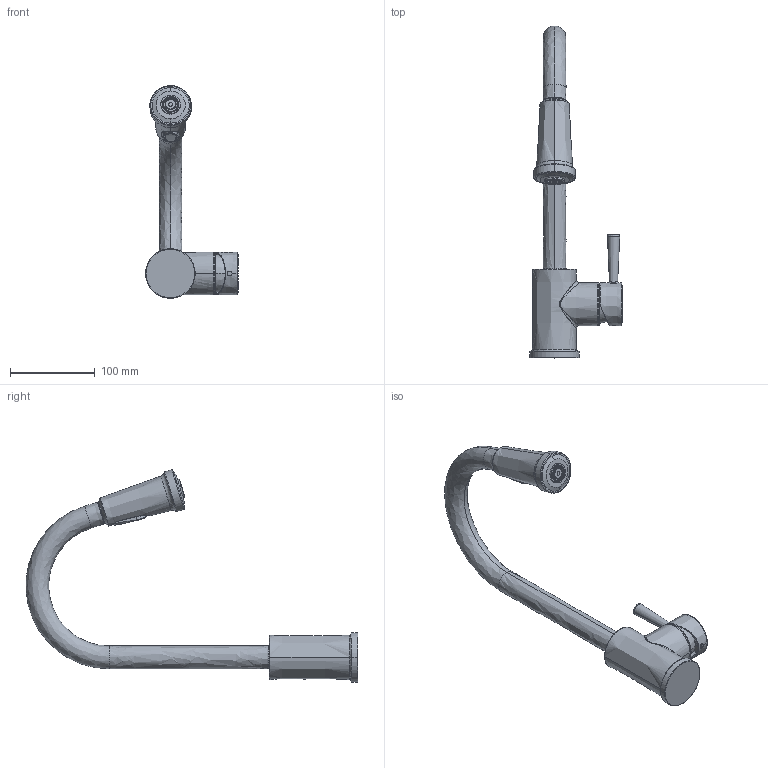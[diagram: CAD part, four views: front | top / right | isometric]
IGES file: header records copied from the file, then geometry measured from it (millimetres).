
Start section:  PTC IGES file: sku_7175.igs
Global section: file name: sku_7175.igs; native system: Pro/ENGINEER by Parametric Technology Corporation; preprocessor: 2006460; author: 9dutterb; organization: Unknown; date: 20071219.111405; units: inch
Bounding box: 109.94 x 392.72 x 251.61 mm (x, y, z)
Surface area: 102911.7 mm2 (no closed solid volume)
Topology: 0 solids, 0 shells, 215 faces, 1246 edges, 1244 vertices
Faces by surface type: revolution 115, bspline 97, extrusion 3
